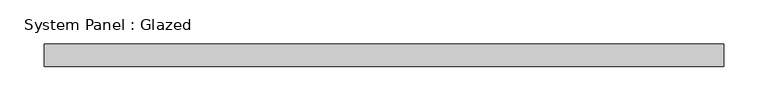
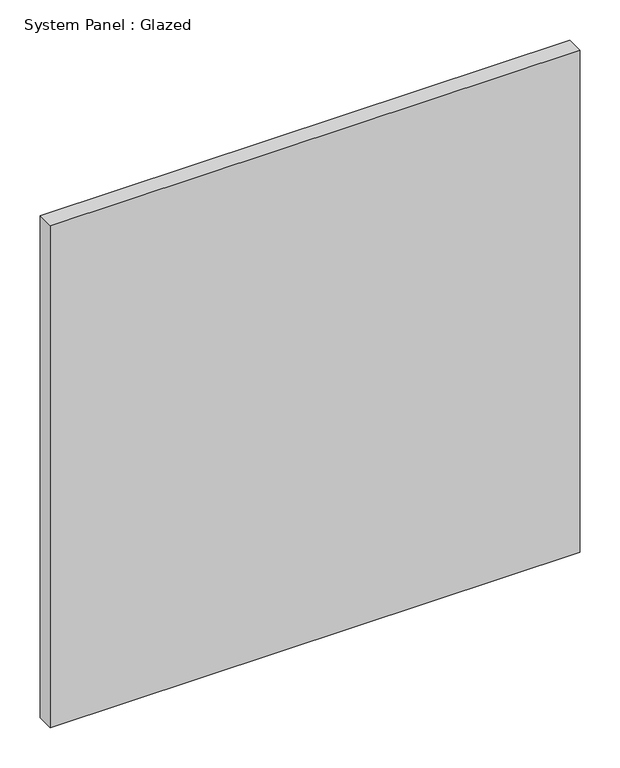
"""IFC4 building model written with IfcOpenShell, lengths in millimetres: plate geometry, System Panel : Glazed."""

from ifc_helpers import new_model, si_unit, origin, origin_with_axes, place, context, project, spatial, polyline, outline, extrude, source, transform, mapped, element, save


def system_panel_glazed_273a2703(model_context):
    return source(origin(), model_context, "Body", "SweptSolid", [
        extrude(outline(polyline([(381.7538216, 24.5), (-381.7538216, 24.5), (-381.7538216, 49.5), (381.7538216, 49.5), (381.7538216, 24.5)])), origin_with_axes(), (0.0, 0.0, 1.0), 765.0),
    ])


if __name__ == "__main__":
    model = new_model("IFC4")
    model_context = context("Model", 3, world=origin())
    ifc_project = project(units=[si_unit("LENGTHUNIT", "METRE", prefix="MILLI")], contexts=[model_context])
    site = spatial("IfcSite", under=ifc_project)
    building = spatial("IfcBuilding", under=site)
    placement = place(None, origin())
    system_panel_glazed_shape = system_panel_glazed_273a2703(model_context)
    element("IfcPlate", 1, ObjectType="System Panel : Glazed", at=placement, inside=building, context=model_context, shape_type="MappedRepresentation", body=[
        mapped(system_panel_glazed_shape, transform((0.0, 0.0, 0.0), x_axis=(1.0, 0.0, 0.0), y_axis=(0.0, 1.0, 0.0), z_axis=(0.0, 0.0, 1.0))),
    ])
    save(model, "model.ifc")
